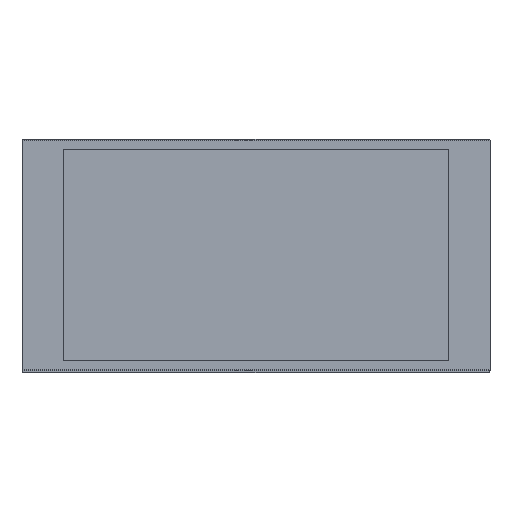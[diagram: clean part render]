
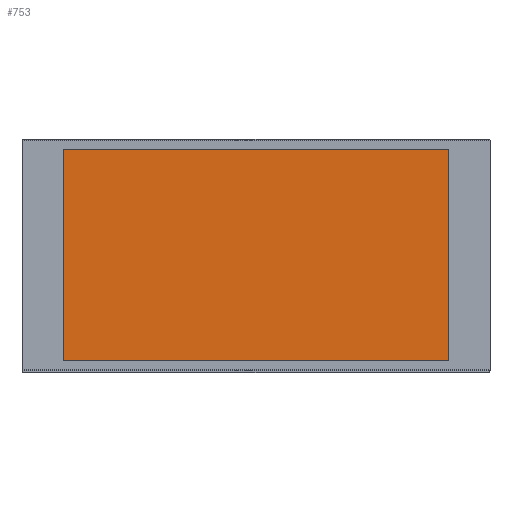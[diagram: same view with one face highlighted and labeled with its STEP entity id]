
A CAD part, top view. The second image highlights one B-rep face of the part: STEP entity #753.
In plain terms, the highlighted planar face has unit normal (0, 0, 1).
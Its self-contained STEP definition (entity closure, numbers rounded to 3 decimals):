
#624 = VERTEX_POINT('',#625);
#625 = CARTESIAN_POINT('',(-2.1,-1.15,7.2));
#631 = EDGE_CURVE('',#624,#632,#634,.T.);
#632 = VERTEX_POINT('',#633);
#633 = CARTESIAN_POINT('',(2.1,-1.15,7.2));
#634 = LINE('',#635,#636);
#635 = CARTESIAN_POINT('',(-2.1,-1.15,7.2));
#636 = VECTOR('',#637,1.);
#637 = DIRECTION('',(1.,0.,0.));
#662 = EDGE_CURVE('',#632,#663,#665,.T.);
#663 = VERTEX_POINT('',#664);
#664 = CARTESIAN_POINT('',(2.1,1.15,7.2));
#665 = LINE('',#666,#667);
#666 = CARTESIAN_POINT('',(2.1,-1.15,7.2));
#667 = VECTOR('',#668,1.);
#668 = DIRECTION('',(0.,1.,0.));
#693 = EDGE_CURVE('',#663,#694,#696,.T.);
#694 = VERTEX_POINT('',#695);
#695 = CARTESIAN_POINT('',(-2.1,1.15,7.2));
#696 = LINE('',#697,#698);
#697 = CARTESIAN_POINT('',(2.1,1.15,7.2));
#698 = VECTOR('',#699,1.);
#699 = DIRECTION('',(-1.,0.,0.));
#724 = EDGE_CURVE('',#694,#624,#725,.T.);
#725 = LINE('',#726,#727);
#726 = CARTESIAN_POINT('',(-2.1,1.15,7.2));
#727 = VECTOR('',#728,1.);
#728 = DIRECTION('',(0.,-1.,0.));
#753 = ADVANCED_FACE('',(#754),#760,.T.);
#754 = FACE_BOUND('',#755,.T.);
#755 = EDGE_LOOP('',(#756,#757,#758,#759));
#756 = ORIENTED_EDGE('',*,*,#631,.T.);
#757 = ORIENTED_EDGE('',*,*,#662,.T.);
#758 = ORIENTED_EDGE('',*,*,#693,.T.);
#759 = ORIENTED_EDGE('',*,*,#724,.T.);
#760 = PLANE('',#761);
#761 = AXIS2_PLACEMENT_3D('',#762,#763,#764);
#762 = CARTESIAN_POINT('',(0.,0.,7.2));
#763 = DIRECTION('',(0.,0.,1.));
#764 = DIRECTION('',(1.,0.,-0.));
